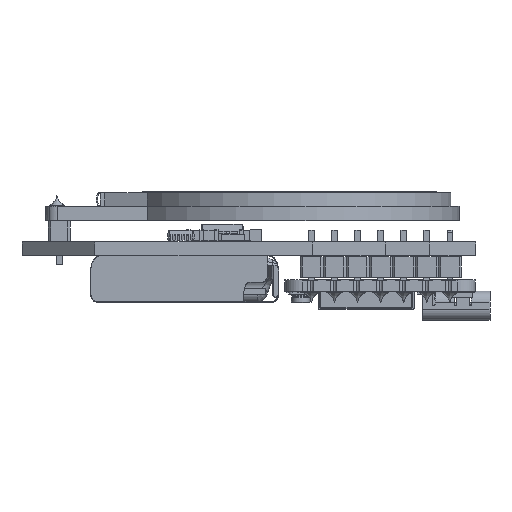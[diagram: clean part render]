
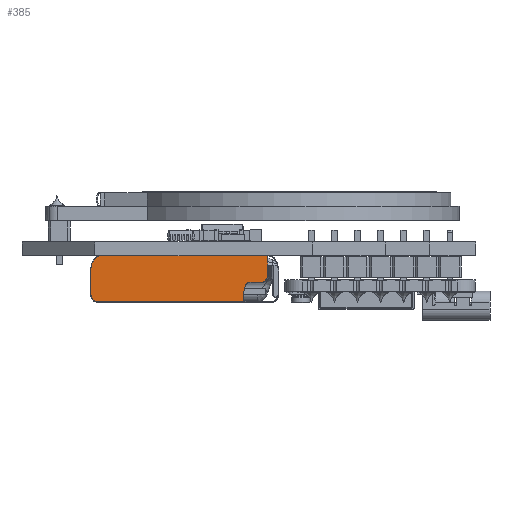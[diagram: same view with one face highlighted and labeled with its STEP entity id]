
A CAD part, left-side view. The second image highlights one B-rep face of the part: STEP entity #385.
In plain terms, the highlighted planar face has unit normal (-1, 0, 0).
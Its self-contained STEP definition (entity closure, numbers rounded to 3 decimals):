
#91=CARTESIAN_POINT('',(3.178,27.101,-2.95));
#92=VERTEX_POINT('',#91);
#93=CARTESIAN_POINT('',(3.178,27.768,-3.95));
#94=VERTEX_POINT('',#93);
#95=CARTESIAN_POINT('',(3.178,27.101,-2.95));
#96=CARTESIAN_POINT('',(3.178,27.234,-2.95));
#97=CARTESIAN_POINT('',(3.178,27.356,-3.026));
#98=CARTESIAN_POINT('',(3.178,27.478,-3.102));
#99=CARTESIAN_POINT('',(3.178,27.573,-3.243));
#100=CARTESIAN_POINT('',(3.178,27.666,-3.383));
#101=CARTESIAN_POINT('',(3.178,27.717,-3.567));
#102=CARTESIAN_POINT('',(3.178,27.768,-3.751));
#103=CARTESIAN_POINT('',(3.178,27.768,-3.95));
#104=B_SPLINE_CURVE_WITH_KNOTS('',2,(#95,#96,#97,#98,#99,#100,#101,#102,#103),.UNSPECIFIED.,.F.,.F.,(3,2,2,2,3),(0.,0.25,0.5,0.75,1.),.UNSPECIFIED.);
#105=EDGE_CURVE('',#92,#94,#104,.T.);
#144=CARTESIAN_POINT('',(3.178,27.768,-5.085));
#145=VERTEX_POINT('',#144);
#146=CARTESIAN_POINT('',(3.178,27.768,-5.085));
#147=DIRECTION('',(-0.,0.,1.));
#148=VECTOR('',#147,1.135);
#149=LINE('',#146,#148);
#150=EDGE_CURVE('',#145,#94,#149,.T.);
#193=CARTESIAN_POINT('',(3.178,25.149,-1.95));
#194=VERTEX_POINT('',#193);
#201=CARTESIAN_POINT('',(3.178,25.816,-2.95));
#202=VERTEX_POINT('',#201);
#203=CARTESIAN_POINT('',(3.178,25.149,-1.95));
#204=CARTESIAN_POINT('',(3.178,25.149,-2.149));
#205=CARTESIAN_POINT('',(3.178,25.2,-2.333));
#206=CARTESIAN_POINT('',(3.178,25.251,-2.516));
#207=CARTESIAN_POINT('',(3.178,25.345,-2.657));
#208=CARTESIAN_POINT('',(3.178,25.438,-2.797));
#209=CARTESIAN_POINT('',(3.178,25.561,-2.874));
#210=CARTESIAN_POINT('',(3.178,25.683,-2.95));
#211=CARTESIAN_POINT('',(3.178,25.816,-2.95));
#212=B_SPLINE_CURVE_WITH_KNOTS('',2,(#203,#204,#205,#206,#207,#208,#209,#210,#211),.UNSPECIFIED.,.F.,.F.,(3,2,2,2,3),(0.,0.25,0.5,0.75,1.),.UNSPECIFIED.);
#213=EDGE_CURVE('',#194,#202,#212,.T.);
#307=CARTESIAN_POINT('',(3.178,27.101,-2.95));
#308=DIRECTION('',(0.,-1.,-0.));
#309=VECTOR('',#308,1.285);
#310=LINE('',#307,#309);
#311=EDGE_CURVE('',#92,#202,#310,.T.);
#316=CARTESIAN_POINT('',(3.178,35.476,-2.55));
#317=DIRECTION('',(-1.,-0.,-0.));
#318=DIRECTION('',(-0.,1.,0.));
#319=AXIS2_PLACEMENT_3D('',#316,#317,#318);
#320=PLANE('',#319);
#321=ORIENTED_EDGE('',*,*,#213,.F.);
#322=CARTESIAN_POINT('',(3.178,25.149,-0.015));
#323=VERTEX_POINT('',#322);
#324=CARTESIAN_POINT('',(3.178,25.149,-1.95));
#325=DIRECTION('',(-0.,-0.,1.));
#326=VECTOR('',#325,1.935);
#327=LINE('',#324,#326);
#328=EDGE_CURVE('',#194,#323,#327,.T.);
#329=ORIENTED_EDGE('',*,*,#328,.T.);
#330=CARTESIAN_POINT('',(3.178,43.502,-0.015));
#331=VERTEX_POINT('',#330);
#332=CARTESIAN_POINT('',(3.178,43.502,-0.015));
#333=DIRECTION('',(0.,-1.,-0.));
#334=VECTOR('',#333,18.353);
#335=LINE('',#332,#334);
#336=EDGE_CURVE('',#331,#323,#335,.T.);
#337=ORIENTED_EDGE('',*,*,#336,.F.);
#338=CARTESIAN_POINT('',(3.178,44.635,-1.715));
#339=VERTEX_POINT('',#338);
#340=CARTESIAN_POINT('',(3.178,44.635,-1.715));
#341=CARTESIAN_POINT('',(3.178,44.635,-1.377));
#342=CARTESIAN_POINT('',(3.178,44.549,-1.064));
#343=CARTESIAN_POINT('',(3.178,44.463,-0.753));
#344=CARTESIAN_POINT('',(3.178,44.303,-0.513));
#345=CARTESIAN_POINT('',(3.178,44.144,-0.274));
#346=CARTESIAN_POINT('',(3.178,43.936,-0.144));
#347=CARTESIAN_POINT('',(3.178,43.728,-0.015));
#348=CARTESIAN_POINT('',(3.178,43.502,-0.015));
#349=B_SPLINE_CURVE_WITH_KNOTS('',2,(#340,#341,#342,#343,#344,#345,#346,#347,#348),.UNSPECIFIED.,.F.,.F.,(3,2,2,2,3),(0.,0.25,0.5,0.75,1.),.UNSPECIFIED.);
#350=EDGE_CURVE('',#339,#331,#349,.T.);
#351=ORIENTED_EDGE('',*,*,#350,.F.);
#352=CARTESIAN_POINT('',(3.178,44.635,-4.085));
#353=VERTEX_POINT('',#352);
#354=CARTESIAN_POINT('',(3.178,44.635,-4.085));
#355=DIRECTION('',(-0.,-0.,1.));
#356=VECTOR('',#355,2.37);
#357=LINE('',#354,#356);
#358=EDGE_CURVE('',#353,#339,#357,.T.);
#359=ORIENTED_EDGE('',*,*,#358,.F.);
#360=CARTESIAN_POINT('',(3.178,43.969,-5.085));
#361=VERTEX_POINT('',#360);
#362=CARTESIAN_POINT('',(3.178,43.969,-5.085));
#363=CARTESIAN_POINT('',(3.178,44.101,-5.085));
#364=CARTESIAN_POINT('',(3.178,44.224,-5.009));
#365=CARTESIAN_POINT('',(3.178,44.346,-4.933));
#366=CARTESIAN_POINT('',(3.178,44.44,-4.792));
#367=CARTESIAN_POINT('',(3.178,44.534,-4.652));
#368=CARTESIAN_POINT('',(3.178,44.585,-4.468));
#369=CARTESIAN_POINT('',(3.178,44.635,-4.284));
#370=CARTESIAN_POINT('',(3.178,44.635,-4.085));
#371=B_SPLINE_CURVE_WITH_KNOTS('',2,(#362,#363,#364,#365,#366,#367,#368,#369,#370),.UNSPECIFIED.,.F.,.F.,(3,2,2,2,3),(0.,0.25,0.5,0.75,1.),.UNSPECIFIED.);
#372=EDGE_CURVE('',#361,#353,#371,.T.);
#373=ORIENTED_EDGE('',*,*,#372,.F.);
#374=CARTESIAN_POINT('',(3.178,27.768,-5.085));
#375=DIRECTION('',(-0.,1.,0.));
#376=VECTOR('',#375,16.201);
#377=LINE('',#374,#376);
#378=EDGE_CURVE('',#145,#361,#377,.T.);
#379=ORIENTED_EDGE('',*,*,#378,.F.);
#380=ORIENTED_EDGE('',*,*,#150,.T.);
#381=ORIENTED_EDGE('',*,*,#105,.F.);
#382=ORIENTED_EDGE('',*,*,#311,.T.);
#383=EDGE_LOOP('',(#321,#329,#337,#351,#359,#373,#379,#380,#381,#382));
#384=FACE_BOUND('',#383,.T.);
#385=ADVANCED_FACE('',(#384),#320,.T.);
